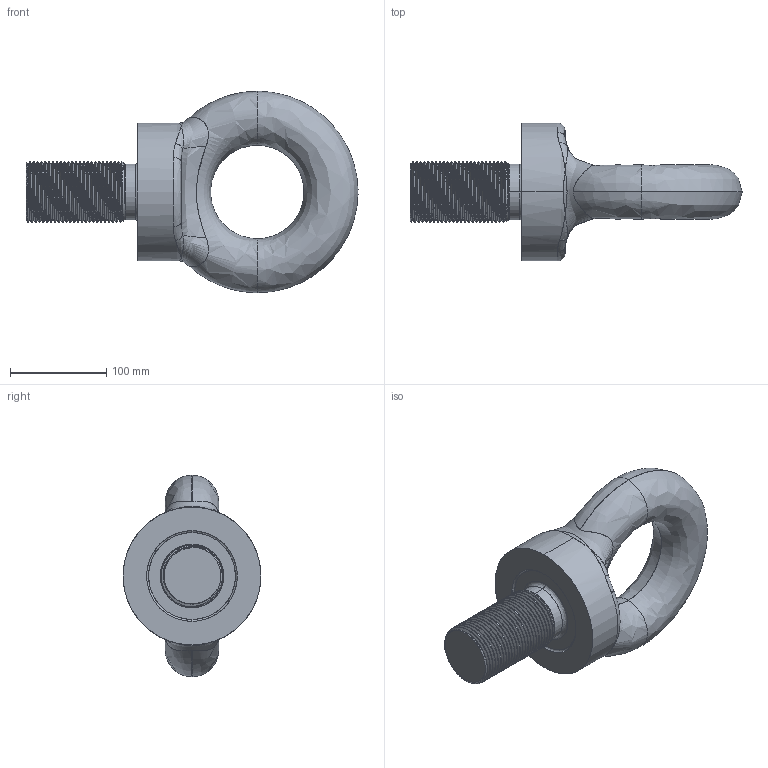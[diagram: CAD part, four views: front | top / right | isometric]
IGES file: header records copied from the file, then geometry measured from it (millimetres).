
Start section: SolidWorks IGES file using analytic representation for surfaces
Global section: file name: C:\Users\Brenton\Documents\Townley\Eye Bolts\New folder\EBMF64.IGS; native system: SolidWorks 2012; preprocessor: SolidWorks 2012; author: Brenton; date: 140226.144153; units: millimetre
Bounding box: 344.48 x 143 x 209 mm (x, y, z)
Surface area: 158508 mm2 (no closed solid volume)
Topology: 0 solids, 0 shells, 96 faces, 3325 edges, 3319 vertices
Faces by surface type: revolution 62, bspline 34
